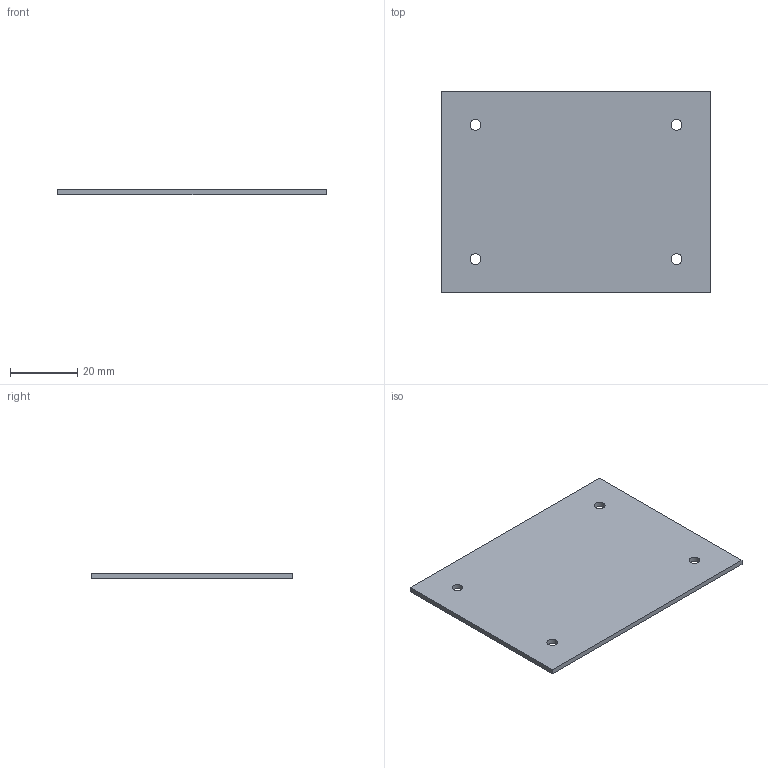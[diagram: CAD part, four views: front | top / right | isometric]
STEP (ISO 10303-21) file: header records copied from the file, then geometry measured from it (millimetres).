
FILE_DESCRIPTION(('KiCad electronic assembly'),'2;1');
FILE_NAME('board.step','2026-08-09T14:46:50',('Pcbnew'),('Kicad'), 'Open CASCADE STEP processor 7.9','KiCad to STEP converter','Unknown' );
FILE_SCHEMA(('AUTOMOTIVE_DESIGN { 1 0 10303 214 1 1 1 1 }'));
Length unit declared in the file: millimetre
Products named in the file (2): board 1; edge_io_rings_PCB
Assembly tree (1 placements, depth 2):
  board 1
    edge_io_rings_PCB
Bounding box: 80 x 60 x 1.51 mm (x, y, z)
Volume: 7199.4 mm3; surface area: 10019.2 mm2
Topology: 1 solids, 1 shells, 10 faces, 24 edges, 16 vertices
Faces by surface type: plane 6, cylinder 4
Full cylindrical faces by diameter (mm): 3.2 x4
Entity records: 349 total; most frequent: DIRECTION 56, CARTESIAN_POINT 52, ORIENTED_EDGE 48, EDGE_CURVE 24, AXIS2_PLACEMENT_3D 20, FACE_BOUND 18, EDGE_LOOP 18, VERTEX_POINT 16
